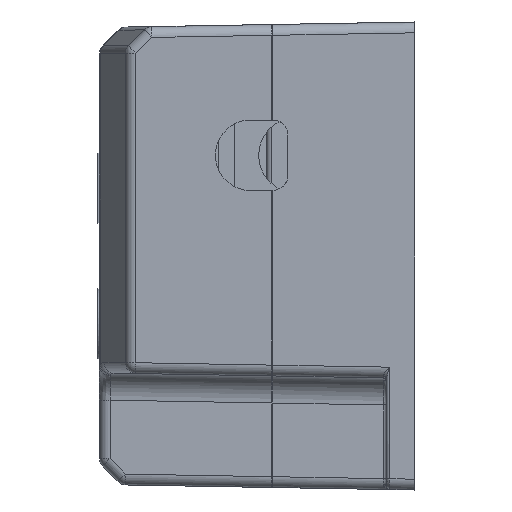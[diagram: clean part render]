
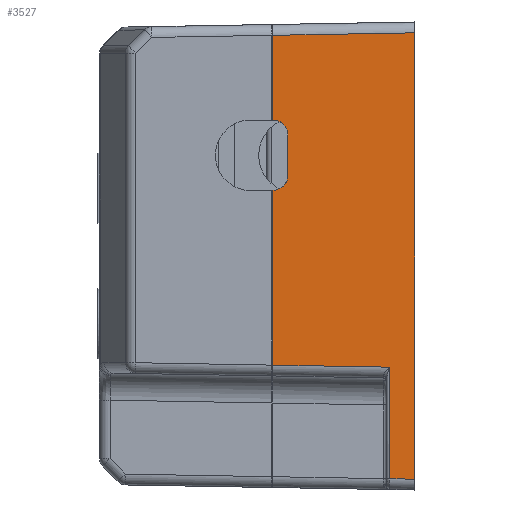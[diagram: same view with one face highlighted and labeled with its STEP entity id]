
A CAD part, left-side view. The second image highlights one B-rep face of the part: STEP entity #3527.
In plain terms, the highlighted planar face has unit normal (-1, 0.018, 0).
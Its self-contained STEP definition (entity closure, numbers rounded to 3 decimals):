
#372 = EDGE_LOOP ( 'NONE', ( #29897, #9867, #53174, #16010, #44701, #2771, #52588, #4668, #41115, #13327 ) ) ;
#389 = EDGE_CURVE ( 'NONE', #6431, #41954, #48064, .T. ) ;
#928 = VERTEX_POINT ( 'NONE', #8678 ) ;
#2083 = CARTESIAN_POINT ( 'NONE',  ( -51.463, -11.32, 35.225 ) ) ;
#2771 = ORIENTED_EDGE ( 'NONE', *, *, #31589, .T. ) ;
#2886 = VERTEX_POINT ( 'NONE', #55046 ) ;
#3527 = ADVANCED_FACE ( 'NONE', ( #46044 ), #37798, .T. ) ;
#3831 = CARTESIAN_POINT ( 'NONE',  ( -51.274, -0.525, 13.625 ) ) ;
#4487 = CARTESIAN_POINT ( 'NONE',  ( -51.299, -1.925, 24.775 ) ) ;
#4501 = EDGE_CURVE ( 'NONE', #928, #9003, #35316, .T. ) ;
#4668 = ORIENTED_EDGE ( 'NONE', *, *, #44338, .F. ) ;
#5052 = CARTESIAN_POINT ( 'NONE',  ( -51.299, -1.925, 24.775 ) ) ;
#6431 = VERTEX_POINT ( 'NONE', #9034 ) ;
#7574 = VECTOR ( 'NONE', #29969, 1000. ) ;
#8678 = CARTESIAN_POINT ( 'NONE',  ( -51.274, -0.525, 3.554 ) ) ;
#8760 = EDGE_CURVE ( 'NONE', #34696, #41029, #39839, .T. ) ;
#8851 = VECTOR ( 'NONE', #22892, 1000. ) ;
#9003 = VERTEX_POINT ( 'NONE', #41792 ) ;
#9034 = CARTESIAN_POINT ( 'NONE',  ( -51.274, -0.525, 26.175 ) ) ;
#9263 = CARTESIAN_POINT ( 'NONE',  ( -51.503, -13.643, 34.226 ) ) ;
#9589 = CARTESIAN_POINT ( 'NONE',  ( -51.289, -1.345, 26.175 ) ) ;
#9867 = ORIENTED_EDGE ( 'NONE', *, *, #37735, .T. ) ;
#12865 = DIRECTION ( 'NONE',  ( 0., 0., -1. ) ) ;
#13327 = ORIENTED_EDGE ( 'NONE', *, *, #389, .T. ) ;
#14933 = CARTESIAN_POINT ( 'NONE',  ( -51.274, -0.525, 13.625 ) ) ;
#15710 = EDGE_CURVE ( 'NONE', #9003, #38609, #28229, .T. ) ;
#15944 = VECTOR ( 'NONE', #50956, 1000. ) ;
#16010 = ORIENTED_EDGE ( 'NONE', *, *, #4501, .T. ) ;
#16048 = VECTOR ( 'NONE', #26217, 1000. ) ;
#16237 = CARTESIAN_POINT ( 'NONE',  ( -51.274, -0.525, 33.997 ) ) ;
#18372 = CARTESIAN_POINT ( 'NONE',  ( -51.299, -1.925, 25.595 ) ) ;
#18466 = DIRECTION ( 'NONE',  ( -0.017, -1., -0.017 ) ) ;
#19123 = EDGE_CURVE ( 'NONE', #6431, #19984, #25701, .T. ) ;
#19247 = CARTESIAN_POINT ( 'NONE',  ( -51.299, -1.925, 21.075 ) ) ;
#19984 = VERTEX_POINT ( 'NONE', #16237 ) ;
#21370 = CARTESIAN_POINT ( 'NONE',  ( -51.503, -13.625, -7.975 ) ) ;
#21404 = VECTOR ( 'NONE', #18466, 1000. ) ;
#21625 = LINE ( 'NONE', #43500, #21404 ) ;
#21764 = LINE ( 'NONE', #9263, #29534 ) ;
#22892 = DIRECTION ( 'NONE',  ( 0., 0., 1. ) ) ;
#24454 = DIRECTION ( 'NONE',  ( -0.017, -1., 0. ) ) ;
#24831 = LINE ( 'NONE', #25405, #15944 ) ;
#25405 = CARTESIAN_POINT ( 'NONE',  ( -51.299, -1.925, 35.225 ) ) ;
#25701 = LINE ( 'NONE', #3831, #7574 ) ;
#26217 = DIRECTION ( 'NONE',  ( -0.017, -1., -0.017 ) ) ;
#26740 = AXIS2_PLACEMENT_3D ( 'NONE', #50582, #55129, #24454 ) ;
#28229 = LINE ( 'NONE', #2083, #50001 ) ;
#29534 = VECTOR ( 'NONE', #30875, 1000. ) ;
#29897 = ORIENTED_EDGE ( 'NONE', *, *, #31080, .T. ) ;
#29969 = DIRECTION ( 'NONE',  ( 0., 0., 1. ) ) ;
#30200 = CARTESIAN_POINT ( 'NONE',  ( -51.503, -13.625, -6.975 ) ) ;
#30875 = DIRECTION ( 'NONE',  ( -0.017, -1., 0.017 ) ) ;
#31080 = EDGE_CURVE ( 'NONE', #41954, #35782, #24831, .T. ) ;
#31589 = EDGE_CURVE ( 'NONE', #38609, #41029, #21625, .T. ) ;
#33338 = DIRECTION ( 'NONE',  ( 0., 0., -1. ) ) ;
#34696 = VERTEX_POINT ( 'NONE', #41413 ) ;
#35316 = LINE ( 'NONE', #35593, #16048 ) ;
#35593 = CARTESIAN_POINT ( 'NONE',  ( -51.274, -0.525, 3.554 ) ) ;
#35782 = VERTEX_POINT ( 'NONE', #19247 ) ;
#37735 = EDGE_CURVE ( 'NONE', #35782, #2886, #55716, .T. ) ;
#37798 = PLANE ( 'NONE',  #26740 ) ;
#37836 = CARTESIAN_POINT ( 'NONE',  ( -51.289, -1.345, 19.675 ) ) ;
#38261 = CARTESIAN_POINT ( 'NONE',  ( -51.463, -11.32, -6.935 ) ) ;
#38609 = VERTEX_POINT ( 'NONE', #38261 ) ;
#39839 = LINE ( 'NONE', #21370, #44473 ) ;
#41029 = VERTEX_POINT ( 'NONE', #30200 ) ;
#41115 = ORIENTED_EDGE ( 'NONE', *, *, #19123, .F. ) ;
#41246 = CARTESIAN_POINT ( 'NONE',  ( -51.299, -1.925, 21.075 ) ) ;
#41413 = CARTESIAN_POINT ( 'NONE',  ( -51.503, -13.625, 34.225 ) ) ;
#41541 = CARTESIAN_POINT ( 'NONE',  ( -51.299, -1.925, 20.255 ) ) ;
#41792 = CARTESIAN_POINT ( 'NONE',  ( -51.463, -11.32, 3.365 ) ) ;
#41954 = VERTEX_POINT ( 'NONE', #5052 ) ;
#43411 = CARTESIAN_POINT ( 'NONE',  ( -51.274, -0.525, 26.175 ) ) ;
#43500 = CARTESIAN_POINT ( 'NONE',  ( -51.463, -11.32, -6.935 ) ) ;
#44338 = EDGE_CURVE ( 'NONE', #19984, #34696, #21764, .T. ) ;
#44473 = VECTOR ( 'NONE', #12865, 1000. ) ;
#44701 = ORIENTED_EDGE ( 'NONE', *, *, #15710, .T. ) ;
#46044 = FACE_OUTER_BOUND ( 'NONE', #372, .T. ) ;
#48064 =( BOUNDED_CURVE ( )  B_SPLINE_CURVE ( 3, ( #43411, #9589, #18372, #4487 ),
 .UNSPECIFIED., .F., .T. ) 
 B_SPLINE_CURVE_WITH_KNOTS ( ( 4, 4 ),
 ( 1.571, 3.142 ),
 .UNSPECIFIED. ) 
 CURVE ( )  GEOMETRIC_REPRESENTATION_ITEM ( )  RATIONAL_B_SPLINE_CURVE ( ( 1., 0.805, 0.805, 1. ) ) 
 REPRESENTATION_ITEM ( '' )  );
#50001 = VECTOR ( 'NONE', #33338, 1000. ) ;
#50582 = CARTESIAN_POINT ( 'NONE',  ( -51.503, -13.625, 35.225 ) ) ;
#50654 = EDGE_CURVE ( 'NONE', #928, #2886, #53852, .T. ) ;
#50892 = CARTESIAN_POINT ( 'NONE',  ( -51.274, -0.525, 19.675 ) ) ;
#50956 = DIRECTION ( 'NONE',  ( 0., 0., -1. ) ) ;
#52588 = ORIENTED_EDGE ( 'NONE', *, *, #8760, .F. ) ;
#53174 = ORIENTED_EDGE ( 'NONE', *, *, #50654, .F. ) ;
#53852 = LINE ( 'NONE', #14933, #8851 ) ;
#55046 = CARTESIAN_POINT ( 'NONE',  ( -51.274, -0.525, 19.675 ) ) ;
#55129 = DIRECTION ( 'NONE',  ( -1., 0.017, 0. ) ) ;
#55716 =( BOUNDED_CURVE ( )  B_SPLINE_CURVE ( 3, ( #41246, #41541, #37836, #50892 ),
 .UNSPECIFIED., .F., .T. ) 
 B_SPLINE_CURVE_WITH_KNOTS ( ( 4, 4 ),
 ( 0., 1.571 ),
 .UNSPECIFIED. ) 
 CURVE ( )  GEOMETRIC_REPRESENTATION_ITEM ( )  RATIONAL_B_SPLINE_CURVE ( ( 1., 0.805, 0.805, 1. ) ) 
 REPRESENTATION_ITEM ( '' )  );
